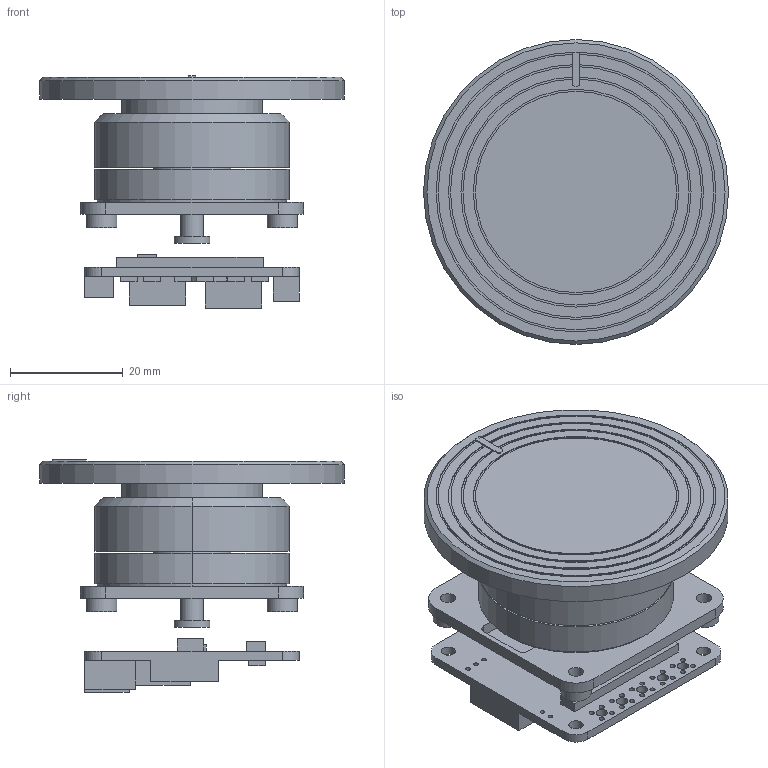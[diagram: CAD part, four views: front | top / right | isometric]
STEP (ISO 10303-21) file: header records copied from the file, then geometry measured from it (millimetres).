
FILE_DESCRIPTION(('Open CASCADE Model'),'2;1');
FILE_NAME('Open CASCADE Shape Model','2026-11-21T14:29:37',('Author'),( 'Open CASCADE'),'Open CASCADE STEP processor 7.9','Open CASCADE 7.9' ,'Unknown');
FILE_SCHEMA(('AUTOMOTIVE_DESIGN { 1 0 10303 214 1 1 1 1 }'));
Length unit declared in the file: millimetre
Products named in the file (10): Scratch_wheel_GL30; GL30 vendor geometry; Moteus controller vendor envelope; Bracket fit model; Bracket spacers; Platter mounting hub; Magnet adapter shaft; Diametric magnet; Scratch wheel; Wheel index
Assembly tree (9 placements, depth 2):
  Scratch_wheel_GL30
    GL30 vendor geometry
    Moteus controller vendor envelope
    Bracket fit model
    Bracket spacers
    Platter mounting hub
    Magnet adapter shaft
    Diametric magnet
    Scratch wheel
    Wheel index
Bounding box: 54 x 54 x 41.11 mm (x, y, z)
Volume: 22364.7 mm3; surface area: 23663.7 mm2
Topology: 19 solids, 19 shells, 465 faces, 1166 edges, 770 vertices
Faces by surface type: cylinder 235, plane 207, cone 14, torus 9
Full cylindrical faces by diameter (mm): 0.65 x12, 0.8 x5, 0.9 x20, 2 x5, 2.5 x4, 2.7 x8, 3.2 x4, 3.25 x3, 4 x1, 5.4 x4, 6.35 x1, 8.5 x1, 25 x1, 35.64 x1, 36.36 x1, 40.04 x1, 40.76 x1, 44.44 x1, 45.16 x1, 48.84 x1, 49.56 x1, 54 x1
Entity records: 31858 total; most frequent: CARTESIAN_POINT 7405, DIRECTION 4713, LINE 2415, VECTOR 2415, ORIENTED_EDGE 2332, PCURVE 2332, DEFINITIONAL_REPRESENTATION 2332, EDGE_CURVE 1166
